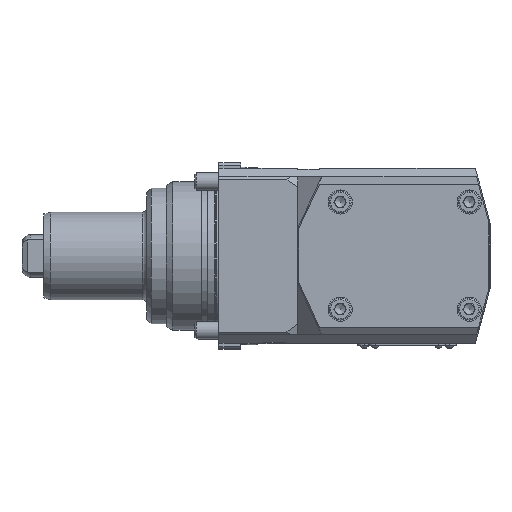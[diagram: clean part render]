
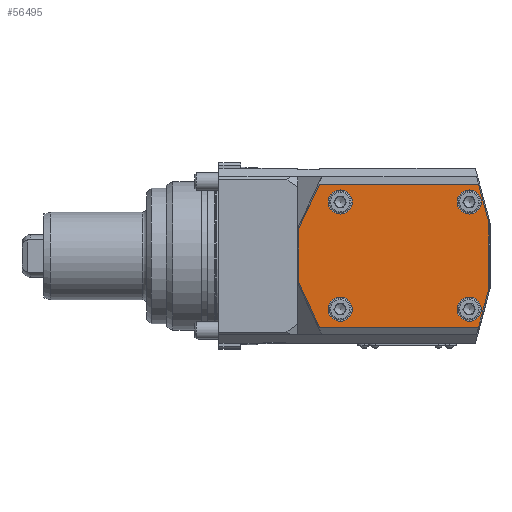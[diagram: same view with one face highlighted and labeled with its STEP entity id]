
A CAD part, top view. The second image highlights one B-rep face of the part: STEP entity #56495.
In plain terms, the highlighted planar face has unit normal (0, 0, 1).
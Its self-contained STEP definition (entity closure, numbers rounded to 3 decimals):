
#25747=CIRCLE('',#54448,5.5);
#25748=CIRCLE('',#54449,5.5);
#25749=CIRCLE('',#54450,5.5);
#25750=CIRCLE('',#54451,5.5);
#26510=ORIENTED_EDGE('',*,*,#34629,.F.);
#26511=ORIENTED_EDGE('',*,*,#34634,.F.);
#26512=ORIENTED_EDGE('',*,*,#34636,.F.);
#26513=ORIENTED_EDGE('',*,*,#34639,.F.);
#26514=ORIENTED_EDGE('',*,*,#34641,.F.);
#26515=ORIENTED_EDGE('',*,*,#34644,.F.);
#26516=ORIENTED_EDGE('',*,*,#34645,.F.);
#26517=ORIENTED_EDGE('',*,*,#34646,.F.);
#26518=ORIENTED_EDGE('',*,*,#34647,.F.);
#26519=ORIENTED_EDGE('',*,*,#34648,.F.);
#26520=ORIENTED_EDGE('',*,*,#34649,.F.);
#26521=ORIENTED_EDGE('',*,*,#34650,.F.);
#30564=VECTOR('',#39326,1.);
#30569=VECTOR('',#39335,1.);
#30571=VECTOR('',#39339,1.);
#30574=VECTOR('',#39344,1.);
#30576=VECTOR('',#39350,1.);
#30579=VECTOR('',#39355,1.);
#30580=VECTOR('',#39356,1.);
#30581=VECTOR('',#39357,1.);
#31837=LINE('',#43713,#30564);
#31842=LINE('',#43722,#30569);
#31844=LINE('',#43726,#30571);
#31847=LINE('',#43732,#30574);
#31849=LINE('',#43737,#30576);
#31852=LINE('',#43743,#30579);
#31853=LINE('',#43745,#30580);
#31854=LINE('',#43746,#30581);
#33140=VERTEX_POINT('',#43710);
#33141=VERTEX_POINT('',#43712);
#33143=VERTEX_POINT('',#43720);
#33144=VERTEX_POINT('',#43724);
#33146=VERTEX_POINT('',#43730);
#33147=VERTEX_POINT('',#43736);
#33149=VERTEX_POINT('',#43742);
#33150=VERTEX_POINT('',#43744);
#33151=VERTEX_POINT('',#43747);
#33152=VERTEX_POINT('',#43749);
#33153=VERTEX_POINT('',#43751);
#33154=VERTEX_POINT('',#43753);
#34629=EDGE_CURVE('',#33140,#33141,#31837,.T.);
#34634=EDGE_CURVE('',#33143,#33140,#31842,.T.);
#34636=EDGE_CURVE('',#33144,#33143,#31844,.T.);
#34639=EDGE_CURVE('',#33146,#33144,#31847,.T.);
#34641=EDGE_CURVE('',#33147,#33146,#31849,.T.);
#34644=EDGE_CURVE('',#33149,#33147,#31852,.T.);
#34645=EDGE_CURVE('',#33150,#33149,#31853,.T.);
#34646=EDGE_CURVE('',#33141,#33150,#31854,.T.);
#34647=EDGE_CURVE('',#33151,#33151,#25747,.T.);
#34648=EDGE_CURVE('',#33152,#33152,#25748,.T.);
#34649=EDGE_CURVE('',#33153,#33153,#25749,.T.);
#34650=EDGE_CURVE('',#33154,#33154,#25750,.T.);
#36705=EDGE_LOOP('',(#26510,#26511,#26512,#26513,#26514,#26515,#26516,#26517));
#36706=EDGE_LOOP('',(#26518));
#36707=EDGE_LOOP('',(#26519));
#36708=EDGE_LOOP('',(#26520));
#36709=EDGE_LOOP('',(#26521));
#37908=FACE_BOUND('',#36705,.T.);
#37909=FACE_BOUND('',#36706,.T.);
#37910=FACE_BOUND('',#36707,.T.);
#37911=FACE_BOUND('',#36708,.T.);
#37912=FACE_BOUND('',#36709,.T.);
#39326=DIRECTION('',(72.709,0.,0.));
#39335=DIRECTION('',(9.524,20.425,0.));
#39339=DIRECTION('',(0.,24.599,0.));
#39344=DIRECTION('',(-9.524,20.425,0.));
#39350=DIRECTION('',(-72.709,0.,0.));
#39353=DIRECTION('',(0.,0.,1.));
#39354=DIRECTION('',(0.,-1.,0.));
#39355=DIRECTION('',(-4.767,-17.79,0.));
#39356=DIRECTION('',(0.,-29.868,0.));
#39357=DIRECTION('',(4.767,-17.79,0.));
#39358=DIRECTION('',(0.,0.,1.));
#39359=DIRECTION('',(5.5,0.,0.));
#39360=DIRECTION('',(0.,0.,1.));
#39361=DIRECTION('',(5.5,0.,0.));
#39362=DIRECTION('',(0.,0.,1.));
#39363=DIRECTION('',(5.5,0.,0.));
#39364=DIRECTION('',(0.,0.,1.));
#39365=DIRECTION('',(5.5,0.,0.));
#43710=CARTESIAN_POINT('',(46.024,32.724,96.));
#43712=CARTESIAN_POINT('',(118.733,32.724,96.));
#43713=CARTESIAN_POINT('',(46.024,32.724,96.));
#43720=CARTESIAN_POINT('',(36.5,12.3,96.));
#43722=CARTESIAN_POINT('',(36.5,12.3,96.));
#43724=CARTESIAN_POINT('',(36.5,-12.3,96.));
#43726=CARTESIAN_POINT('',(36.5,-12.3,96.));
#43730=CARTESIAN_POINT('',(46.024,-32.724,96.));
#43732=CARTESIAN_POINT('',(46.024,-32.724,96.));
#43736=CARTESIAN_POINT('',(118.733,-32.724,96.));
#43737=CARTESIAN_POINT('',(118.733,-32.724,96.));
#43741=CARTESIAN_POINT('',(124.,-15.,96.));
#43742=CARTESIAN_POINT('',(123.5,-14.934,96.));
#43743=CARTESIAN_POINT('',(123.5,-14.934,96.));
#43744=CARTESIAN_POINT('',(123.5,14.934,96.));
#43745=CARTESIAN_POINT('',(123.5,14.934,96.));
#43746=CARTESIAN_POINT('',(118.733,32.724,96.));
#43747=CARTESIAN_POINT('',(61.,-24.5,96.));
#43748=CARTESIAN_POINT('',(55.5,-24.5,96.));
#43749=CARTESIAN_POINT('',(120.,-24.5,96.));
#43750=CARTESIAN_POINT('',(114.5,-24.5,96.));
#43751=CARTESIAN_POINT('',(61.,24.5,96.));
#43752=CARTESIAN_POINT('',(55.5,24.5,96.));
#43753=CARTESIAN_POINT('',(120.,24.5,96.));
#43754=CARTESIAN_POINT('',(114.5,24.5,96.));
#54447=AXIS2_PLACEMENT_3D('',#43741,#39353,#39354);
#54448=AXIS2_PLACEMENT_3D('',#43748,#39358,#39359);
#54449=AXIS2_PLACEMENT_3D('',#43750,#39360,#39361);
#54450=AXIS2_PLACEMENT_3D('',#43752,#39362,#39363);
#54451=AXIS2_PLACEMENT_3D('',#43754,#39364,#39365);
#55860=PLANE('',#54447);
#56495=ADVANCED_FACE('',(#37908,#37909,#37910,#37911,#37912),#55860,.T.);
